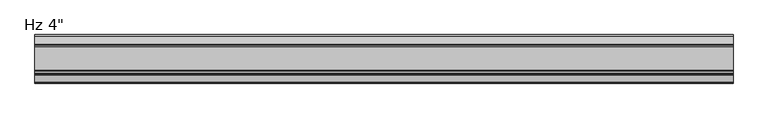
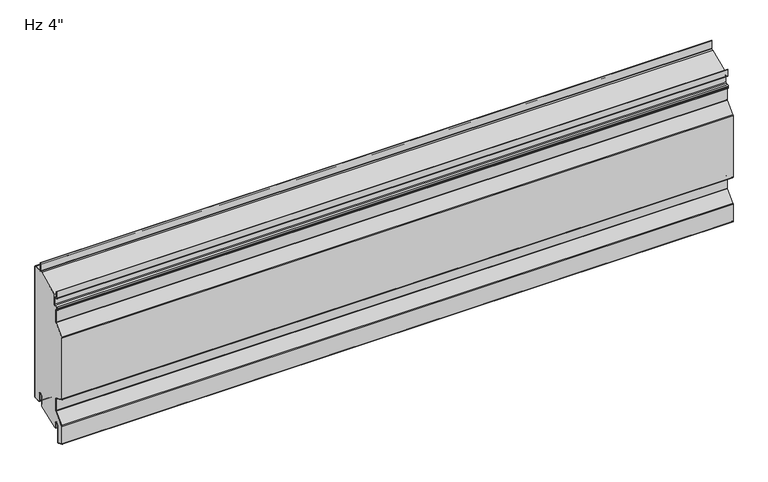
"""IFC4 building model written with IfcOpenShell, lengths in millimetres: plate geometry."""

from ifc_helpers import new_model, si_unit, point, frame, frame_2d, origin, place, context, project, spatial, polyline, circle_curve, trimmed, segment, composite_curve, outline, extrude, source, transform, mapped, element, save


def plate_51ea42c3(model_context):
    return source(origin(), model_context, "Body", "SweptSolid", [
        extrude(outline(composite_curve([segment(polyline([(-26.4011912, 19.05), (-26.4011912, -3.1976612), (-74.633822, -23.01875), (-76.7886912, -23.01875), (-76.7886912, -11.90625)]), True, "CONTINUOUS"), segment(trimmed(circle_curve(frame_2d((-81.7574412, -11.90625)), 4.96875), [point((-76.7886912, -11.90625))], [point((-86.7261912, -11.90625))], True, "CARTESIAN"), True, "CONTINUOUS"), segment(polyline([(-86.7261912, -11.90625), (-86.7261912, -48.8194049)]), True, "CONTINUOUS"), segment(trimmed(circle_curve(frame_2d((-88.1074412, -48.8194049)), 1.38125), [point((-86.7261912, -48.8194049))], [point((-88.6666208, -50.0824052))], False, "CARTESIAN"), True, "CONTINUOUS"), segment(polyline([(-88.6666208, -50.0824052), (-99.7779296, -45.1629946)]), True, "CONTINUOUS"), segment(trimmed(circle_curve(frame_2d((-99.21875, -43.8999943)), 1.38125), [point((-99.7779296, -45.1629946))], [point((-100.6, -43.8999943))], False, "CARTESIAN"), True, "CONTINUOUS"), segment(polyline([(-100.6, -43.8999943), (-100.6, -5.0536946)]), True, "CONTINUOUS"), segment(trimmed(circle_curve(frame_2d((-98.5012, -5.0536946)), 2.0988), [point((-100.6, -5.0536946))], [point((-100.0092077, -3.5939431))], False, "CARTESIAN"), True, "CONTINUOUS"), segment(polyline([(-100.0092077, -3.5939431), (-79.8145567, 17.2682996)]), True, "CONTINUOUS"), segment(trimmed(circle_curve(frame_2d((-81.6737, 19.0679503)), 2.5875), [point((-79.8145567, 17.2682996))], [point((-79.0862, 19.0679503))], True, "CARTESIAN"), True, "CONTINUOUS"), segment(polyline([(-79.0862, 19.0679503), (-79.0862, 45.5917981)]), True, "CONTINUOUS"), segment(trimmed(circle_curve(frame_2d((-81.6737, 45.5917981)), 2.5875), [point((-79.0862, 45.5917981))], [point((-80.6261871, 47.9577806))], True, "CARTESIAN"), True, "CONTINUOUS"), segment(polyline([(-80.6261871, 47.9577806), (-99.7779296, 56.4370054)]), True, "CONTINUOUS"), segment(trimmed(circle_curve(frame_2d((-99.21875, 57.7000057)), 1.38125), [point((-99.7779296, 56.4370054))], [point((-100.6, 57.7000057))], False, "CARTESIAN"), True, "CONTINUOUS"), segment(polyline([(-100.6, 57.7000057), (-100.6, 198.4367131)]), True, "CONTINUOUS"), segment(trimmed(circle_curve(frame_2d((-99.21875, 198.4367131)), 1.38125), [point((-100.6, 198.4367131))], [point((-100.2111912, 199.3973962))], False, "CARTESIAN"), True, "CONTINUOUS"), segment(polyline([(-100.2111912, 199.3973962), (-79.8145567, 220.4682996)]), True, "CONTINUOUS"), segment(trimmed(circle_curve(frame_2d((-81.6737, 222.2679503)), 2.5875), [point((-79.8145567, 220.4682996))], [point((-79.0862, 222.2679503))], True, "CARTESIAN"), True, "CONTINUOUS"), segment(polyline([(-79.0862, 222.2679503), (-79.0862, 248.7917981)]), True, "CONTINUOUS"), segment(trimmed(circle_curve(frame_2d((-81.6737, 248.7917981)), 2.5875), [point((-79.0862, 248.7917981))], [point((-80.6261871, 251.1577806))], True, "CARTESIAN"), True, "CONTINUOUS"), segment(polyline([(-80.6261871, 251.1577806), (-82.3166208, 251.9062016)]), True, "CONTINUOUS"), segment(trimmed(circle_curve(frame_2d((-81.7574412, 253.1692019)), 1.38125), [point((-82.3166208, 251.9062016))], [point((-83.1386912, 253.1692019))], False, "CARTESIAN"), True, "CONTINUOUS"), segment(polyline([(-83.1386912, 253.1692019), (-83.1386912, 255.4967085)]), True, "CONTINUOUS"), segment(trimmed(circle_curve(frame_2d((-81.7574412, 255.4967085)), 1.38125), [point((-83.1386912, 255.4967085))], [point((-81.8297302, 256.8760655))], False, "CARTESIAN"), True, "CONTINUOUS"), segment(polyline([(-81.8297302, 256.8760655), (-76.0657719, 257.1781418)]), True, "CONTINUOUS"), segment(trimmed(circle_curve(frame_2d((-76.2011912, 259.7620957)), 2.5875), [point((-76.0657719, 257.1781418))], [point((-73.6136912, 259.7620957))], True, "CARTESIAN"), True, "CONTINUOUS"), segment(polyline([(-73.6136912, 259.7620957), (-73.6136912, 282.1892934), (-24.8719682, 303.00625), (-2.3824412, 303.00625)]), True, "CONTINUOUS"), segment(trimmed(circle_curve(frame_2d((-2.3824412, 301.625)), 1.38125), [point((-2.3824412, 303.00625))], [point((-1.0011912, 301.625))], False, "CARTESIAN"), True, "CONTINUOUS"), segment(polyline([(-1.0011912, 301.625), (-1.0011912, 3.175)]), True, "CONTINUOUS"), segment(trimmed(circle_curve(frame_2d((-2.3824412, 3.175)), 1.38125), [point((-1.0011912, 3.175))], [point((-2.3824412, 1.79375))], False, "CARTESIAN"), True, "CONTINUOUS"), segment(polyline([(-2.3824412, 1.79375), (-15.0824412, 1.79375)]), True, "CONTINUOUS"), segment(trimmed(circle_curve(frame_2d((-15.0824412, 3.175)), 1.38125), [point((-15.0824412, 1.79375))], [point((-16.4636912, 3.175))], False, "CARTESIAN"), True, "CONTINUOUS"), segment(polyline([(-16.4636912, 3.175), (-16.4636912, 19.05)]), True, "CONTINUOUS"), segment(trimmed(circle_curve(frame_2d((-21.4324412, 19.05)), 4.96875), [point((-16.4636912, 19.05))], [point((-26.4011912, 19.05))], True, "CARTESIAN"), True, "CONTINUOUS")], self_intersect=False)), frame((-730.0, 0.0, 0.0), z_axis=(1.0, 0.0, 0.0), x_axis=(0.0, 1.0, 0.0)), (0.0, 0.0, 1.0), 1460.0),
        extrude(outline(composite_curve([segment(polyline([(-25.4, 0.79375), (-26.4, 0.79375), (-26.4, 19.05)]), True, "CONTINUOUS"), segment(trimmed(circle_curve(frame_2d((-21.43125, 19.05)), 4.96875), [point((-26.4, 19.05))], [point((-16.4625, 19.05))], False, "CARTESIAN"), True, "CONTINUOUS"), segment(polyline([(-16.4625, 19.05), (-16.4625, 3.175)]), True, "CONTINUOUS"), segment(trimmed(circle_curve(frame_2d((-15.08125, 3.175)), 1.38125), [point((-16.4625, 3.175))], [point((-15.08125, 1.79375))], True, "CARTESIAN"), True, "CONTINUOUS"), segment(polyline([(-15.08125, 1.79375), (-2.38125, 1.79375)]), True, "CONTINUOUS"), segment(trimmed(circle_curve(frame_2d((-2.38125, 3.175)), 1.38125), [point((-2.38125, 1.79375))], [point((-1.0, 3.175))], True, "CARTESIAN"), True, "CONTINUOUS"), segment(polyline([(-1.0, 3.175), (-1.0, 301.625)]), True, "CONTINUOUS"), segment(trimmed(circle_curve(frame_2d((-2.38125, 301.625)), 1.38125), [point((-1.0, 301.625))], [point((-2.38125, 303.00625))], True, "CARTESIAN"), True, "CONTINUOUS"), segment(polyline([(-2.38125, 303.00625), (-19.446875, 303.00625)]), True, "CONTINUOUS"), segment(trimmed(circle_curve(frame_2d((-19.446875, 305.59375)), 2.5875), [point((-19.446875, 303.00625))], [point((-22.034375, 305.59375))], False, "CARTESIAN"), True, "CONTINUOUS"), segment(polyline([(-22.034375, 305.59375), (-22.034375, 323.05625), (-21.034375, 323.05625), (-21.034375, 305.59375)]), True, "CONTINUOUS"), segment(trimmed(circle_curve(frame_2d((-19.446875, 305.59375)), 1.5875), [point((-21.034375, 305.59375))], [point((-19.446875, 304.00625))], True, "CARTESIAN"), True, "CONTINUOUS"), segment(polyline([(-19.446875, 304.00625), (-2.38125, 304.00625)]), True, "CONTINUOUS"), segment(trimmed(circle_curve(frame_2d((-2.38125, 301.625)), 2.38125), [point((-2.38125, 304.00625))], [point((0.0, 301.625))], False, "CARTESIAN"), True, "CONTINUOUS"), segment(polyline([(0.0, 301.625), (0.0, 3.175)]), True, "CONTINUOUS"), segment(trimmed(circle_curve(frame_2d((-2.38125, 3.175)), 2.38125), [point((0.0, 3.175))], [point((-2.38125, 0.79375))], False, "CARTESIAN"), True, "CONTINUOUS"), segment(polyline([(-2.38125, 0.79375), (-15.08125, 0.79375)]), True, "CONTINUOUS"), segment(trimmed(circle_curve(frame_2d((-15.08125, 3.175)), 2.38125), [point((-15.08125, 0.79375))], [point((-17.4625, 3.175))], False, "CARTESIAN"), True, "CONTINUOUS"), segment(polyline([(-17.4625, 3.175), (-17.4625, 19.05)]), True, "CONTINUOUS"), segment(trimmed(circle_curve(frame_2d((-21.43125, 19.05)), 3.96875), [point((-17.4625, 19.05))], [point((-25.4, 19.05))], True, "CARTESIAN"), True, "CONTINUOUS"), segment(polyline([(-25.4, 19.05), (-25.4, 0.79375)]), True, "CONTINUOUS")], self_intersect=False)), frame((-730.0, 0.0, 0.0), z_axis=(1.0, 0.0, 0.0), x_axis=(0.0, 1.0, 0.0)), (0.0, 0.0, 1.0), 1460.0),
        extrude(outline(composite_curve([segment(polyline([(-85.7261912, -11.90625), (-85.7261912, -48.8194049)]), True, "CONTINUOUS"), segment(trimmed(circle_curve(frame_2d((-88.1074412, -48.8194049)), 2.38125), [point((-85.7261912, -48.8194049))], [point((-89.0714567, -50.9967946))], False, "CARTESIAN"), True, "CONTINUOUS"), segment(polyline([(-89.0714567, -50.9967946), (-100.1827655, -46.0773839)]), True, "CONTINUOUS"), segment(trimmed(circle_curve(frame_2d((-99.21875, -43.8999943)), 2.38125), [point((-100.1827655, -46.0773839))], [point((-101.6, -43.8999943))], False, "CARTESIAN"), True, "CONTINUOUS"), segment(polyline([(-101.6, -43.8999943), (-101.6, -5.0536946)]), True, "CONTINUOUS"), segment(trimmed(circle_curve(frame_2d((-98.5012, -5.0536946)), 3.0988), [point((-101.6, -5.0536946))], [point((-100.7277172, -2.8984259))], False, "CARTESIAN"), True, "CONTINUOUS"), segment(polyline([(-100.7277172, -2.8984259), (-80.5330662, 17.9638168)]), True, "CONTINUOUS"), segment(trimmed(circle_curve(frame_2d((-81.6737, 19.0679503)), 1.5875), [point((-80.5330662, 17.9638168))], [point((-80.0862, 19.0679503))], True, "CARTESIAN"), True, "CONTINUOUS"), segment(polyline([(-80.0862, 19.0679503), (-80.0862, 45.5917981)]), True, "CONTINUOUS"), segment(trimmed(circle_curve(frame_2d((-81.6737, 45.5917981)), 1.5875), [point((-80.0862, 45.5917981))], [point((-81.031023, 47.0433912))], True, "CARTESIAN"), True, "CONTINUOUS"), segment(polyline([(-81.031023, 47.0433912), (-100.1827655, 55.5226161)]), True, "CONTINUOUS"), segment(trimmed(circle_curve(frame_2d((-99.21875, 57.7000057)), 2.38125), [point((-100.1827655, 55.5226161))], [point((-101.6, 57.7000057))], False, "CARTESIAN"), True, "CONTINUOUS"), segment(polyline([(-101.6, 57.7000057), (-101.6, 198.4367131)]), True, "CONTINUOUS"), segment(trimmed(circle_curve(frame_2d((-99.21875, 198.4367131)), 2.38125), [point((-101.6, 198.4367131))], [point((-100.9297007, 200.0929134))], False, "CARTESIAN"), True, "CONTINUOUS"), segment(polyline([(-100.9297007, 200.0929134), (-80.5330662, 221.1638168)]), True, "CONTINUOUS"), segment(trimmed(circle_curve(frame_2d((-81.6737, 222.2679503)), 1.5875), [point((-80.5330662, 221.1638168))], [point((-80.0862, 222.2679503))], True, "CARTESIAN"), True, "CONTINUOUS"), segment(polyline([(-80.0862, 222.2679503), (-80.0862, 248.7917981)]), True, "CONTINUOUS"), segment(trimmed(circle_curve(frame_2d((-81.6737, 248.7917981)), 1.5875), [point((-80.0862, 248.7917981))], [point((-81.031023, 250.2433912))], True, "CARTESIAN"), True, "CONTINUOUS"), segment(polyline([(-81.031023, 250.2433912), (-82.7214567, 250.9918123)]), True, "CONTINUOUS"), segment(trimmed(circle_curve(frame_2d((-81.7574412, 253.1692019)), 2.38125), [point((-82.7214567, 250.9918123))], [point((-84.1386912, 253.1692019))], False, "CARTESIAN"), True, "CONTINUOUS"), segment(polyline([(-84.1386912, 253.1692019), (-84.1386912, 255.4967085)]), True, "CONTINUOUS"), segment(trimmed(circle_curve(frame_2d((-81.7574412, 255.4967085)), 2.38125), [point((-84.1386912, 255.4967085))], [point((-81.8820662, 257.8746951))], False, "CARTESIAN"), True, "CONTINUOUS"), segment(polyline([(-81.8820662, 257.8746951), (-76.1181078, 258.1767713)]), True, "CONTINUOUS"), segment(trimmed(circle_curve(frame_2d((-76.2011912, 259.7620957)), 1.5875), [point((-76.1181078, 258.1767713))], [point((-74.6136912, 259.7620957))], True, "CARTESIAN"), True, "CONTINUOUS"), segment(polyline([(-74.6136912, 259.7620957), (-74.6136912, 274.6375)]), True, "CONTINUOUS"), segment(trimmed(circle_curve(frame_2d((-76.2011912, 274.6375)), 1.5875), [point((-74.6136912, 274.6375))], [point((-76.2011912, 276.225))], True, "CARTESIAN"), True, "CONTINUOUS"), segment(polyline([(-76.2011912, 276.225), (-79.7730662, 276.225)]), True, "CONTINUOUS"), segment(trimmed(circle_curve(frame_2d((-79.7730662, 278.60625)), 2.38125), [point((-79.7730662, 276.225))], [point((-82.1543162, 278.60625))], False, "CARTESIAN"), True, "CONTINUOUS"), segment(polyline([(-82.1543162, 278.60625), (-82.1543162, 292.89375), (-81.1543162, 292.89375), (-81.1543162, 278.60625)]), True, "CONTINUOUS"), segment(trimmed(circle_curve(frame_2d((-79.7730662, 278.60625)), 1.38125), [point((-81.1543162, 278.60625))], [point((-79.7730662, 277.225))], True, "CARTESIAN"), True, "CONTINUOUS"), segment(polyline([(-79.7730662, 277.225), (-76.2011912, 277.225)]), True, "CONTINUOUS"), segment(trimmed(circle_curve(frame_2d((-76.2011912, 274.6375)), 2.5875), [point((-76.2011912, 277.225))], [point((-73.6136912, 274.6375))], False, "CARTESIAN"), True, "CONTINUOUS"), segment(polyline([(-73.6136912, 274.6375), (-73.6136912, 259.7620957)]), True, "CONTINUOUS"), segment(trimmed(circle_curve(frame_2d((-76.2011912, 259.7620957)), 2.5875), [point((-73.6136912, 259.7620957))], [point((-76.0657719, 257.1781418))], False, "CARTESIAN"), True, "CONTINUOUS"), segment(polyline([(-76.0657719, 257.1781418), (-81.8297302, 256.8760655)]), True, "CONTINUOUS"), segment(trimmed(circle_curve(frame_2d((-81.7574412, 255.4967085)), 1.38125), [point((-81.8297302, 256.8760655))], [point((-83.1386912, 255.4967085))], True, "CARTESIAN"), True, "CONTINUOUS"), segment(polyline([(-83.1386912, 255.4967085), (-83.1386912, 253.1692019)]), True, "CONTINUOUS"), segment(trimmed(circle_curve(frame_2d((-81.7574412, 253.1692019)), 1.38125), [point((-83.1386912, 253.1692019))], [point((-82.3166208, 251.9062016))], True, "CARTESIAN"), True, "CONTINUOUS"), segment(polyline([(-82.3166208, 251.9062016), (-80.6261871, 251.1577806)]), True, "CONTINUOUS"), segment(trimmed(circle_curve(frame_2d((-81.6737, 248.7917981)), 2.5875), [point((-80.6261871, 251.1577806))], [point((-79.0862, 248.7917981))], False, "CARTESIAN"), True, "CONTINUOUS"), segment(polyline([(-79.0862, 248.7917981), (-79.0862, 222.2679503)]), True, "CONTINUOUS"), segment(trimmed(circle_curve(frame_2d((-81.6737, 222.2679503)), 2.5875), [point((-79.0862, 222.2679503))], [point((-79.8145567, 220.4682996))], False, "CARTESIAN"), True, "CONTINUOUS"), segment(polyline([(-79.8145567, 220.4682996), (-100.2111912, 199.3973962)]), True, "CONTINUOUS"), segment(trimmed(circle_curve(frame_2d((-99.21875, 198.4367131)), 1.38125), [point((-100.2111912, 199.3973962))], [point((-100.6, 198.4367131))], True, "CARTESIAN"), True, "CONTINUOUS"), segment(polyline([(-100.6, 198.4367131), (-100.6, 57.7000057)]), True, "CONTINUOUS"), segment(trimmed(circle_curve(frame_2d((-99.21875, 57.7000057)), 1.38125), [point((-100.6, 57.7000057))], [point((-99.7779296, 56.4370054))], True, "CARTESIAN"), True, "CONTINUOUS"), segment(polyline([(-99.7779296, 56.4370054), (-80.6261871, 47.9577806)]), True, "CONTINUOUS"), segment(trimmed(circle_curve(frame_2d((-81.6737, 45.5917981)), 2.5875), [point((-80.6261871, 47.9577806))], [point((-79.0862, 45.5917981))], False, "CARTESIAN"), True, "CONTINUOUS"), segment(polyline([(-79.0862, 45.5917981), (-79.0862, 19.0679503)]), True, "CONTINUOUS"), segment(trimmed(circle_curve(frame_2d((-81.6737, 19.0679503)), 2.5875), [point((-79.0862, 19.0679503))], [point((-79.8145567, 17.2682996))], False, "CARTESIAN"), True, "CONTINUOUS"), segment(polyline([(-79.8145567, 17.2682996), (-100.0092077, -3.5939431)]), True, "CONTINUOUS"), segment(trimmed(circle_curve(frame_2d((-98.5012, -5.0536946)), 2.0988), [point((-100.0092077, -3.5939431))], [point((-100.6, -5.0536946))], True, "CARTESIAN"), True, "CONTINUOUS"), segment(polyline([(-100.6, -5.0536946), (-100.6, -43.8999943)]), True, "CONTINUOUS"), segment(trimmed(circle_curve(frame_2d((-99.21875, -43.8999943)), 1.38125), [point((-100.6, -43.8999943))], [point((-99.7779296, -45.1629946))], True, "CARTESIAN"), True, "CONTINUOUS"), segment(polyline([(-99.7779296, -45.1629946), (-88.6666208, -50.0824052)]), True, "CONTINUOUS"), segment(trimmed(circle_curve(frame_2d((-88.1074412, -48.8194049)), 1.38125), [point((-88.6666208, -50.0824052))], [point((-86.7261912, -48.8194049))], True, "CARTESIAN"), True, "CONTINUOUS"), segment(polyline([(-86.7261912, -48.8194049), (-86.7261912, -11.90625)]), True, "CONTINUOUS"), segment(trimmed(circle_curve(frame_2d((-81.7574412, -11.90625)), 4.96875), [point((-86.7261912, -11.90625))], [point((-76.7886912, -11.90625))], False, "CARTESIAN"), True, "CONTINUOUS"), segment(polyline([(-76.7886912, -11.90625), (-76.7886912, -23.01875), (-77.7886912, -23.01875), (-77.7886912, -11.90625)]), True, "CONTINUOUS"), segment(trimmed(circle_curve(frame_2d((-81.7574412, -11.90625)), 3.96875), [point((-77.7886912, -11.90625))], [point((-85.7261912, -11.90625))], True, "CARTESIAN"), True, "CONTINUOUS")], self_intersect=False)), frame((-730.0, 0.0, 0.0), z_axis=(1.0, 0.0, 0.0), x_axis=(0.0, 1.0, 0.0)), (0.0, 0.0, 1.0), 1460.0),
    ])


if __name__ == "__main__":
    model = new_model("IFC4")
    model_context = context("Model", 3, world=origin())
    ifc_project = project(units=[si_unit("LENGTHUNIT", "METRE", prefix="MILLI")], contexts=[model_context])
    site = spatial("IfcSite", under=ifc_project)
    building = spatial("IfcBuilding", under=site)
    placement = place(None, origin())
    plate_shape = plate_51ea42c3(model_context)
    element("IfcPlate", 1, ObjectType="KIP-12-DWR-R19-CP-Hz-A : Hz 4\"", at=placement, inside=building, context=model_context, shape_type="MappedRepresentation", body=[
        mapped(plate_shape, transform((0.0, 0.0, 0.0), x_axis=(1.0, 0.0, 0.0), y_axis=(0.0, 1.0, 0.0), z_axis=(0.0, 0.0, 1.0))),
    ])
    save(model, "model.ifc")
